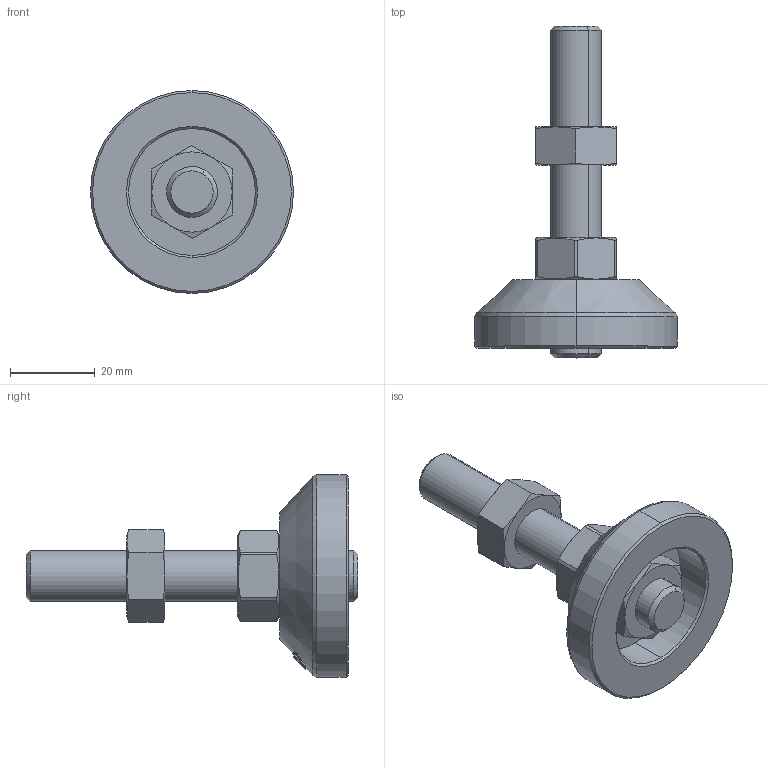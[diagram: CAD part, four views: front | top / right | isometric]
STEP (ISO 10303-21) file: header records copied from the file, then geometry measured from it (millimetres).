
FILE_DESCRIPTION (( 'STEP AP203' ), '1' );
FILE_NAME ('M-50-1250-S.STEP', '2020-09-10T06:56:07', ( '' ), ( '' ), 'SwSTEP 2.0', 'SolidWorks 2016', '' );
FILE_SCHEMA (( 'CONFIG_CONTROL_DESIGN' ));
Length unit declared in the file: millimetre
Products named in the file (5): M-50-1250-S; 脚垫锁紧六角薄螺母M12; 不锈钢双头螺栓M12系列_M12X50; M-50-1褐菜; 脚垫调节六角螺母M12
Assembly tree (4 placements, depth 2):
  M-50-1250-S
    M-50-1褐菜
    不锈钢双头螺栓M12系列_M12X50
    脚垫锁紧六角薄螺母M12
    脚垫调节六角螺母M12
Bounding box: 48 x 78.5 x 48 mm (x, y, z)
Volume: 31261.3 mm3; surface area: 12070.4 mm2
Topology: 4 solids, 4 shells, 150 faces, 354 edges, 220 vertices
Faces by surface type: cone 63, bspline 38, plane 29, cylinder 20
Entity records: 8000 total; most frequent: CARTESIAN_POINT 4432, ORIENTED_EDGE 708, DIRECTION 502, EDGE_CURVE 354, VERTEX_POINT 220, AXIS2_PLACEMENT_3D 215, B_SPLINE_CURVE_WITH_KNOTS 186, EDGE_LOOP 164
